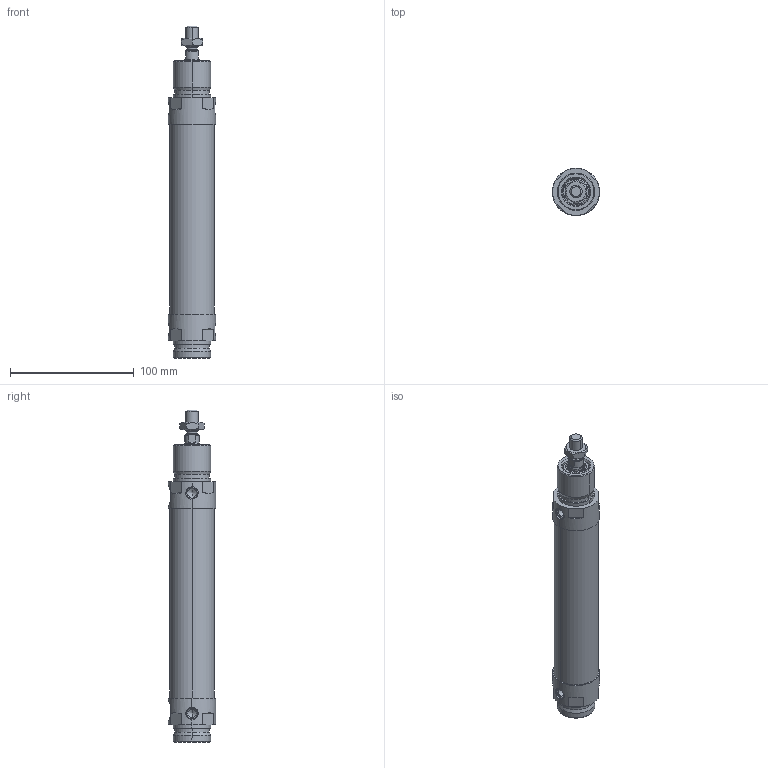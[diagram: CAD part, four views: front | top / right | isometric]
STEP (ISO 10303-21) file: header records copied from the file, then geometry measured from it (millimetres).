
FILE_DESCRIPTION (( 'STEP AP214' ), '1' );
FILE_NAME ('2400147n.STEP', '2016-11-03T08:02:21', ( '' ), ( '' ), 'SwSTEP 2.0', 'SolidWorks 2016', '' );
FILE_SCHEMA (( 'AUTOMOTIVE_DESIGN' ));
Length unit declared in the file: millimetre
Products named in the file (1): 2400147n
Bounding box: 38 x 38 x 268 mm (x, y, z)
Volume: 232167.4 mm3; surface area: 37489.2 mm2
Topology: 3 solids, 3 shells, 179 faces, 401 edges, 235 vertices
Faces by surface type: cylinder 62, cone 52, plane 49, torus 14, bspline 2
Entity records: 7564 total; most frequent: CARTESIAN_POINT 1592, DIRECTION 881, ORIENTED_EDGE 782, EDGE_CURVE 391, AXIS2_PLACEMENT_3D 358, VERTEX_POINT 235, EDGE_LOOP 196, UNCERTAINTY_MEASURE_WITH_UNIT 184
